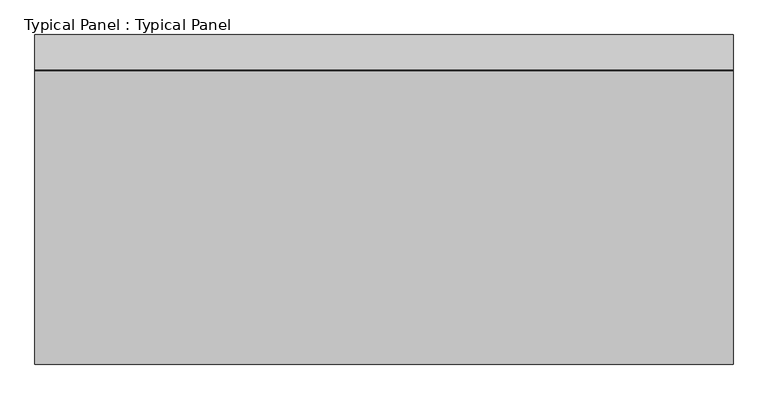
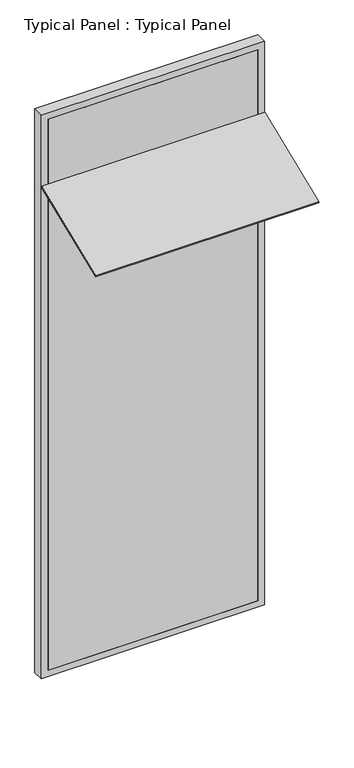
"""IFC4 building model written with IfcOpenShell, lengths in millimetres: plate geometry, Typical Panel : Typical Panel."""

from ifc_helpers import new_model, si_unit, frame, origin, place, context, project, spatial, polyline, outline, extrude, source, transform, mapped, element, save


def typical_panel_typical_panel_823978b0(model_context):
    return source(origin(), model_context, "Body", "SweptSolid", [
        extrude(outline(polyline([(0.0, -680.0), (0.0, 0.0), (1500.0, 0.0), (1500.0, -680.0), (0.0, -680.0)])), frame((750.0, -631.7389552, 3235.9956779), z_axis=(0.0, -0.3746065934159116, 0.9271838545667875), x_axis=(-1.0, 0.0, 0.0)), (0.0, 0.0, 1.0), 10.0),
        extrude(outline(polyline([(0.0, -750.0), (0.0, 750.0), (4000.0, 750.0), (4000.0, -750.0), (0.0, -750.0)]), holes=[polyline([(45.0, 705.0), (45.0, -705.0), (3955.0, -705.0), (3955.0, 705.0), (45.0, 705.0)])]), frame((0.0, -1.5797986, 0.0), z_axis=(0.0, 1.0, 0.0), x_axis=(0.0, 0.0, 1.0)), (0.0, 0.0, 1.0), 75.0),
        extrude(outline(polyline([(705.0, -1.5797986), (-705.0, -1.5797986), (-705.0, 13.4202014), (705.0, 13.4202014), (705.0, -1.5797986)])), frame((0.0, 0.0, 45.0), z_axis=(0.0, 0.0, 1.0), x_axis=(1.0, 0.0, 0.0)), (0.0, 0.0, 1.0), 3910.0),
    ])


if __name__ == "__main__":
    model = new_model("IFC4")
    model_context = context("Model", 3, world=origin())
    ifc_project = project(units=[si_unit("LENGTHUNIT", "METRE", prefix="MILLI")], contexts=[model_context])
    site = spatial("IfcSite", under=ifc_project)
    building = spatial("IfcBuilding", under=site)
    placement = place(None, origin())
    typical_panel_typical_panel_shape = typical_panel_typical_panel_823978b0(model_context)
    element("IfcPlate", 1, ObjectType="Typical Panel : Typical Panel", at=placement, inside=building, context=model_context, shape_type="MappedRepresentation", body=[
        mapped(typical_panel_typical_panel_shape, transform((0.0, 0.0, 0.0), x_axis=(1.0, 0.0, 0.0), y_axis=(0.0, 1.0, 0.0), z_axis=(0.0, 0.0, 1.0))),
    ])
    save(model, "model.ifc")
